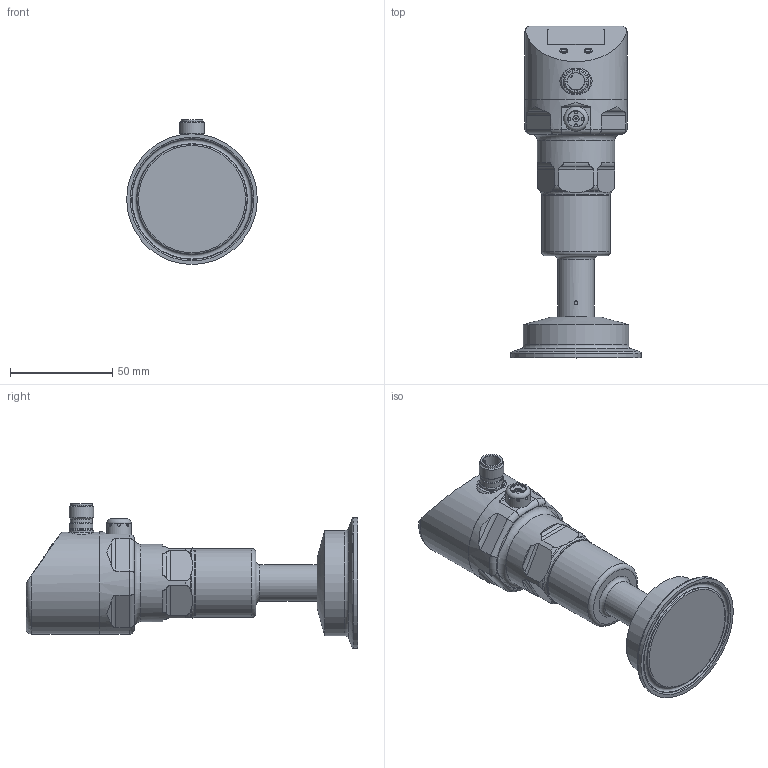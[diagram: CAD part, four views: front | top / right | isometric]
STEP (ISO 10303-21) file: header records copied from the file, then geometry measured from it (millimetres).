
FILE_DESCRIPTION( ( 'STEP AP203' ), '1' );
FILE_NAME( '//expscmdclustefs.cadenas.external/client_exchange/iodir/jobs/output/wkb80972069_no0/STEP/PI2303_2_03.stp', ' ', ( ' ' ), ( ' ' ), 'PSStep 15.0.47', 'PARTsolutions', ' ' );
FILE_SCHEMA( ( 'CONFIG_CONTROL_DESIGN' ) );
Length unit declared in the file: millimetre
Products named in the file (1): _PI2303
Bounding box: 64 x 162.5 x 70.95 mm (x, y, z)
Volume: 204626 mm3; surface area: 29366.1 mm2
Topology: 1 solids, 2 shells, 205 faces, 513 edges, 326 vertices
Faces by surface type: plane 85, cylinder 72, torus 29, cone 17, sphere 2
Full cylindrical faces by diameter (mm): 1 x1, 1.5 x12, 1.88 x1, 3.4 x1, 3.9 x2, 8.4 x1, 10.05 x1, 10.6 x1, 10.8 x1, 11.3 x1, 12 x3, 18 x1, 33.7 x1, 34 x1, 38 x1, 50 x1, 50.1 x1, 51.5 x1, 64 x1
Entity records: 6920 total; most frequent: CARTESIAN_POINT 2439, DIRECTION 876, ORIENTED_EDGE 868, EDGE_CURVE 434, AXIS2_PLACEMENT_3D 369, VERTEX_POINT 310, EDGE_LOOP 294, FACE_OUTER_BOUND 253
